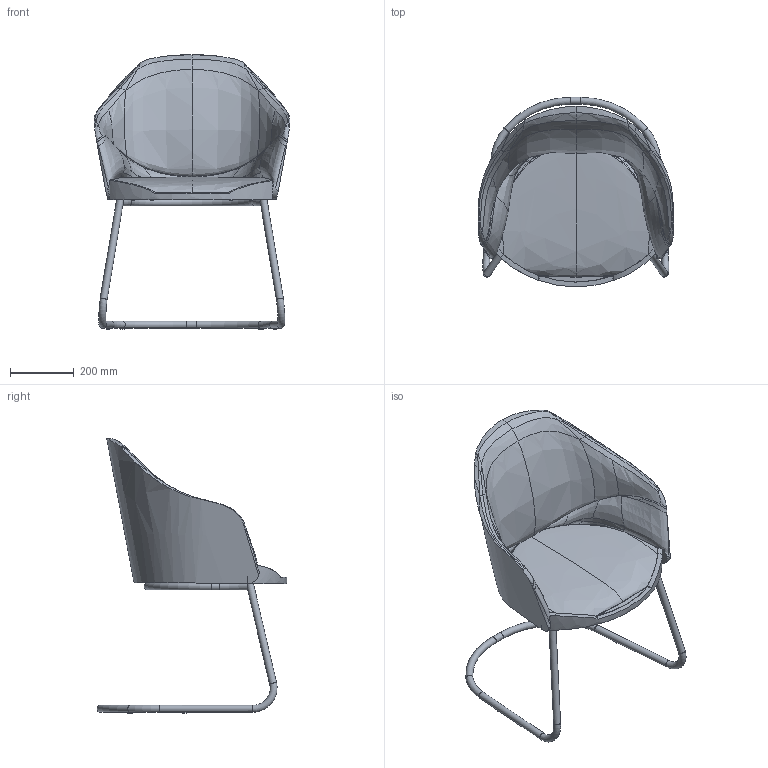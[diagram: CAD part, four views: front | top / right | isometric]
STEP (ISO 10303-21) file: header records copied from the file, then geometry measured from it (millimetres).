
FILE_DESCRIPTION(/* description */ (''),/* implementation_level */ '2;1');
FILE_NAME(/* name */ 'Helium Cantilever.step',/* time_stamp */ '2023-06-20T13:22:31+02:00',/* author */ (''),/* organization */ (''),/* preprocessor_version */ 'ST-DEVELOPER v19.2',/* originating_system */ 'Autodesk Translation Framework v12.6.0.85',/* authorisation */ '');
FILE_SCHEMA (('AUTOMOTIVE_DESIGN { 1 0 10303 214 3 1 1 }'));
Products named in the file (15): cantilever Helium ASM; estructura cantilever; aro superior; pie; chapa; chapa (1); chapa (2); chapa (3); espumas; 0103 DIN 7505-B 5x25; 0103 DIN 7505-B 5x25_1; 0103 DIN 7505-B 5x25_2; 0103 DIN 7505-B 5x25_3; 92470A378_PHILLIPS ROUNDED HEAD SCREWS FOR SHEET METAL; taco patin D.5
Assembly tree (20 placements, depth 3):
  cantilever Helium ASM
    estructura cantilever
      aro superior
      pie
      chapa
      chapa (1)
      chapa (2)
      chapa (3)
    espumas
    0103 DIN 7505-B 5x25
      92470A378_PHILLIPS ROUNDED HEAD SCREWS FOR SHEET METAL
    0103 DIN 7505-B 5x25_1
      92470A378_PHILLIPS ROUNDED HEAD SCREWS FOR SHEET METAL
    0103 DIN 7505-B 5x25_2
      92470A378_PHILLIPS ROUNDED HEAD SCREWS FOR SHEET METAL
    0103 DIN 7505-B 5x25_3
      92470A378_PHILLIPS ROUNDED HEAD SCREWS FOR SHEET METAL
    taco patin D.5  x4
Bounding box: 614.78 x 595.4 x 862.14 mm (x, y, z)
Volume: 27389736.8 mm3; surface area: 1611872.2 mm2
Topology: 16 solids, 16 shells, 578 faces, 1454 edges, 920 vertices
Faces by surface type: bspline 183, cylinder 165, plane 140, sphere 36, torus 30, cone 24
Full cylindrical faces by diameter (mm): 2.202 x36, 4.5 x4, 4.8 x28, 8 x4, 18 x7, 22 x7
Entity records: 46079 total; most frequent: CARTESIAN_POINT 39501, ORIENTED_EDGE 1480, DIRECTION 984, EDGE_CURVE 740, VERTEX_POINT 467, AXIS2_PLACEMENT_3D 391, B_SPLINE_CURVE_WITH_KNOTS 352, EDGE_LOOP 311
